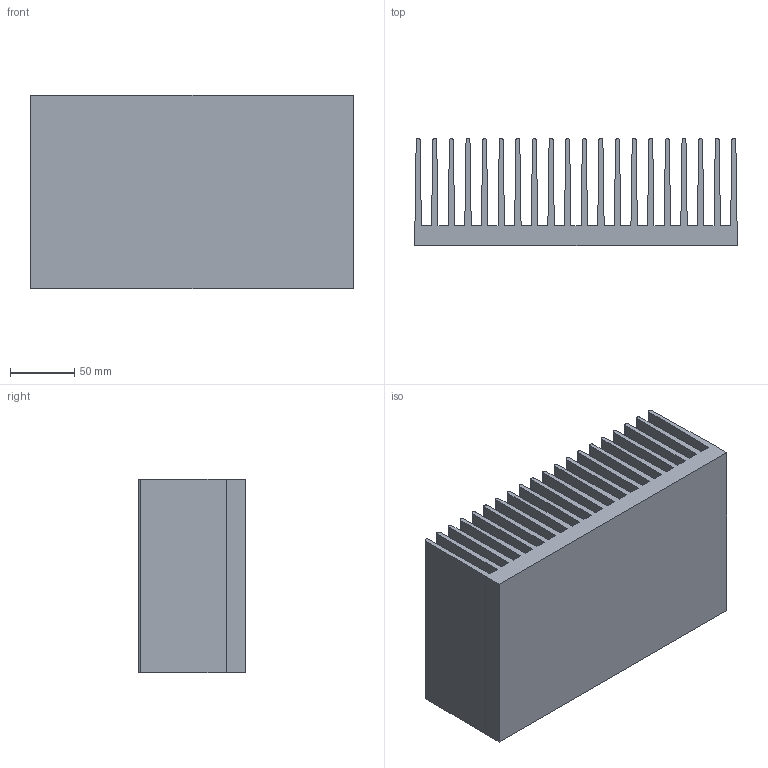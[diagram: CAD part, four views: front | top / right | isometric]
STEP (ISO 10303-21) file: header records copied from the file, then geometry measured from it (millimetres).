
FILE_DESCRIPTION (( 'STEP AP203' ), '1' );
FILE_NAME ('PR 237-150.step', '2002-10-21T08:41:54', ( 'Wolfgang Müller' ), ( 'DPS' ), 'SwSTEP 2.0', 'SolidWorks 2002264', '' );
FILE_SCHEMA (( 'CONFIG_CONTROL_DESIGN' ));
Length unit declared in the file: millimetre
Products named in the file (1): PR 237-150
Bounding box: 250 x 83 x 150 mm (x, y, z)
Volume: 1375617.3 mm3; surface area: 496098 mm2
Topology: 1 solids, 1 shells, 84 faces, 246 edges, 164 vertices
Faces by surface type: plane 64, cylinder 20
Entity records: 2847 total; most frequent: CARTESIAN_POINT 495, ORIENTED_EDGE 492, DIRECTION 456, EDGE_CURVE 246, LINE 206, VECTOR 206, VERTEX_POINT 164, AXIS2_PLACEMENT_3D 125
